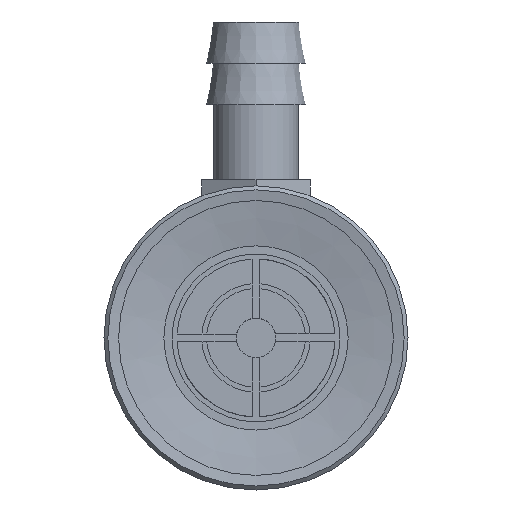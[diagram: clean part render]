
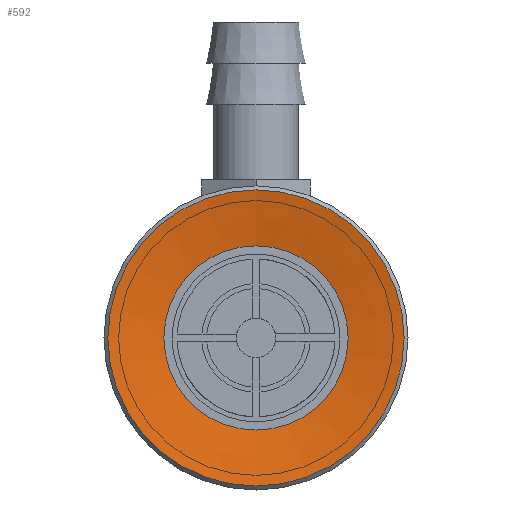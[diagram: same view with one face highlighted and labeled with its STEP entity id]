
A CAD part, front view. The second image highlights one B-rep face of the part: STEP entity #592.
In plain terms, the highlighted conical face has half-angle 80 degrees and reference radius 4.664 mm.
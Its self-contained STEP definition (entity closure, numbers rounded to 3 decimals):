
#592=ADVANCED_FACE('',(#949,#950),#951,.F.);
#949=FACE_BOUND('',#1352,.T.);
#950=FACE_OUTER_BOUND('',#1353,.T.);
#951=CONICAL_SURFACE('',#1354,4.664,1.396);
#1352=EDGE_LOOP('',(#2371));
#1353=EDGE_LOOP('',(#2372));
#1354=AXIS2_PLACEMENT_3D('',#2373,#2374,#2375);
#2371=ORIENTED_EDGE('',*,*,#2812,.F.);
#2372=ORIENTED_EDGE('',*,*,#2829,.T.);
#2373=CARTESIAN_POINT('',(0.0,0.5,0.0));
#2374=DIRECTION('',(-0.0,-1.0,0.));
#2375=DIRECTION('',(0.0,0.,-1.0));
#2812=EDGE_CURVE('',#3308,#3308,#3309,.T.);
#2829=EDGE_CURVE('',#3331,#3331,#3332,.T.);
#3308=VERTEX_POINT('',#4338);
#3309=CIRCLE('',#4339,4.664);
#3331=VERTEX_POINT('',#4384);
#3332=CIRCLE('',#4385,7.5);
#4338=CARTESIAN_POINT('',(0.0,0.5,-4.664));
#4339=AXIS2_PLACEMENT_3D('',#4856,#4857,#4858);
#4384=CARTESIAN_POINT('',(0.0,0.,-7.5));
#4385=AXIS2_PLACEMENT_3D('',#4892,#4893,#4894);
#4856=CARTESIAN_POINT('',(0.0,0.5,0.0));
#4857=DIRECTION('',(0.0,-1.0,0.));
#4858=DIRECTION('',(0.0,0.,-1.0));
#4892=CARTESIAN_POINT('',(0.0,0.0,0.0));
#4893=DIRECTION('',(0.0,-1.0,0.));
#4894=DIRECTION('',(0.0,0.,-1.0));
